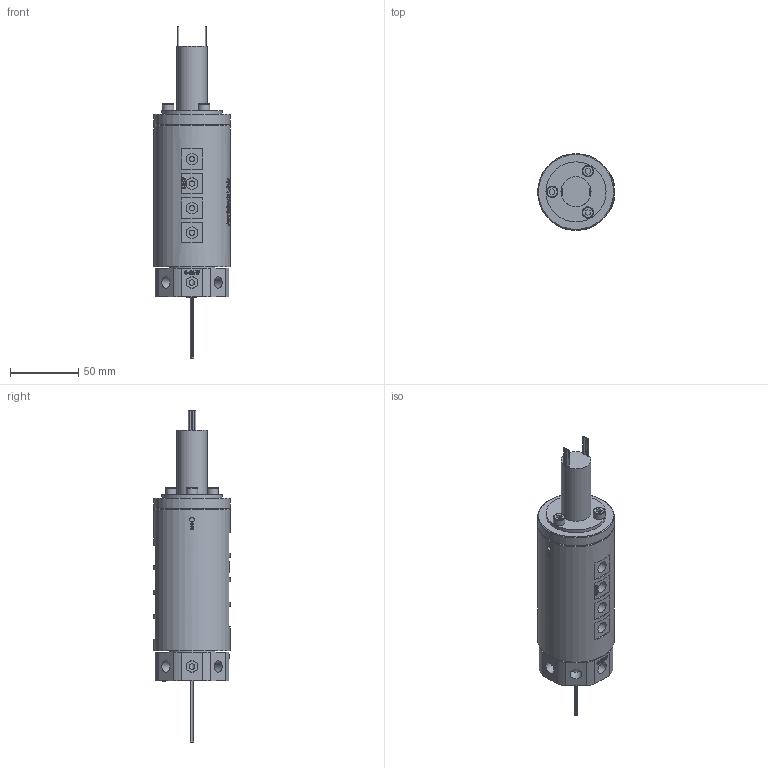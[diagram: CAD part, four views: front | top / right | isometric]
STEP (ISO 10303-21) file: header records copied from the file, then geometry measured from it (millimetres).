
FILE_DESCRIPTION(/* description */ (''),/* implementation_level */ '2;1');
FILE_NAME(/* name */ 'HQ0801-36M.stp',/* time_stamp */ '2025-02-14T11:59:30+08:00',/* author */ (''),/* organization */ (''),/* preprocessor_version */ 'ST-DEVELOPER v16.7',/* originating_system */ 'SIEMENS PLM Software NX 12.0',/* authorisation */ '');
FILE_SCHEMA (('AUTOMOTIVE_DESIGN { 1 0 10303 214 3 1 1 1 }'));
Length unit declared in the file: millimetre
Products named in the file (1): HX0540E8A2D8ngjt
Bounding box: 56.99 x 56 x 243.3 mm (x, y, z)
Volume: 335175.8 mm3; surface area: 47767.2 mm2
Topology: 1 solids, 5 shells, 1170 faces, 3068 edges, 2066 vertices
Faces by surface type: extrusion 503, plane 495, cylinder 132, bspline 30, cone 7, torus 3
Full cylindrical faces by diameter (mm): 0.8 x22, 3.4 x6, 4 x24, 4.1 x8, 4.2 x8, 5 x3, 5.5 x3, 8 x2, 8.5 x19, 22 x1, 34 x1, 44 x1, 56 x2
Entity records: 41995 total; most frequent: CARTESIAN_POINT 17433, ORIENTED_EDGE 5756, DIRECTION 3139, EDGE_CURVE 2878, B_SPLINE_CURVE_WITH_KNOTS 2414, VERTEX_POINT 1999, EDGE_LOOP 1459, ADVANCED_FACE 1167
